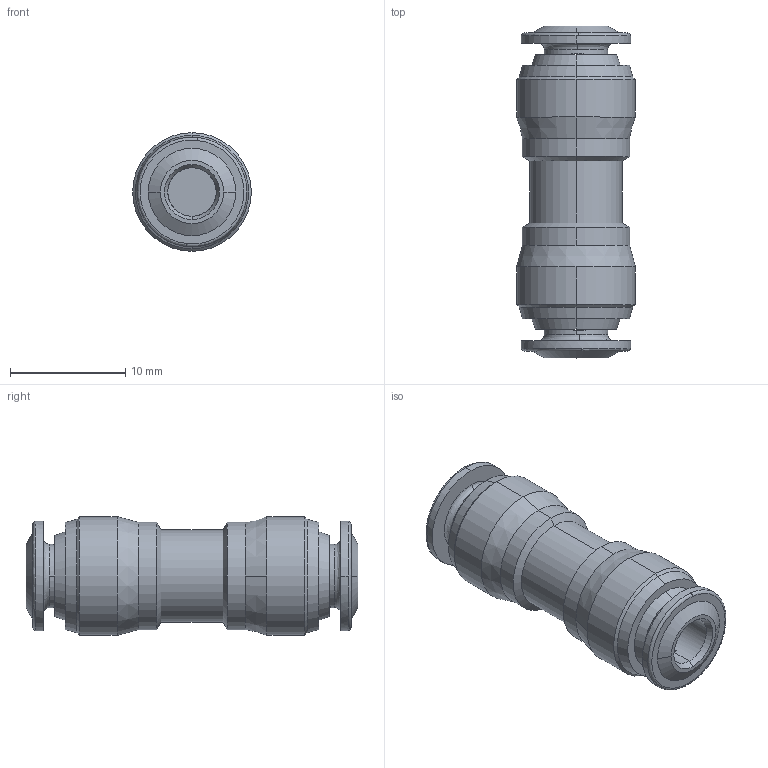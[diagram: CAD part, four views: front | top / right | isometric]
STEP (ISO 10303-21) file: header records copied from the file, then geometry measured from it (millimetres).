
FILE_DESCRIPTION (( 'STEP AP203' ), '1' );
FILE_NAME ('cad_step_251947.STEP', '2017-01-02T13:54:53', ( '' ), ( '' ), 'SwSTEP 2.0', 'SolidWorks 2016', '' );
FILE_SCHEMA (( 'CONFIG_CONTROL_DESIGN' ));
Length unit declared in the file: millimetre
Products named in the file (1): cad_step_251947
Bounding box: 10.3 x 28.8 x 10.3 mm (x, y, z)
Volume: 1715 mm3; surface area: 1254.8 mm2
Topology: 1 solids, 1 shells, 86 faces, 214 edges, 136 vertices
Faces by surface type: cone 32, plane 24, cylinder 22, bspline 8
Entity records: 3099 total; most frequent: CARTESIAN_POINT 929, DIRECTION 468, ORIENTED_EDGE 428, EDGE_CURVE 214, AXIS2_PLACEMENT_3D 191, VERTEX_POINT 136, CIRCLE 112, EDGE_LOOP 100
